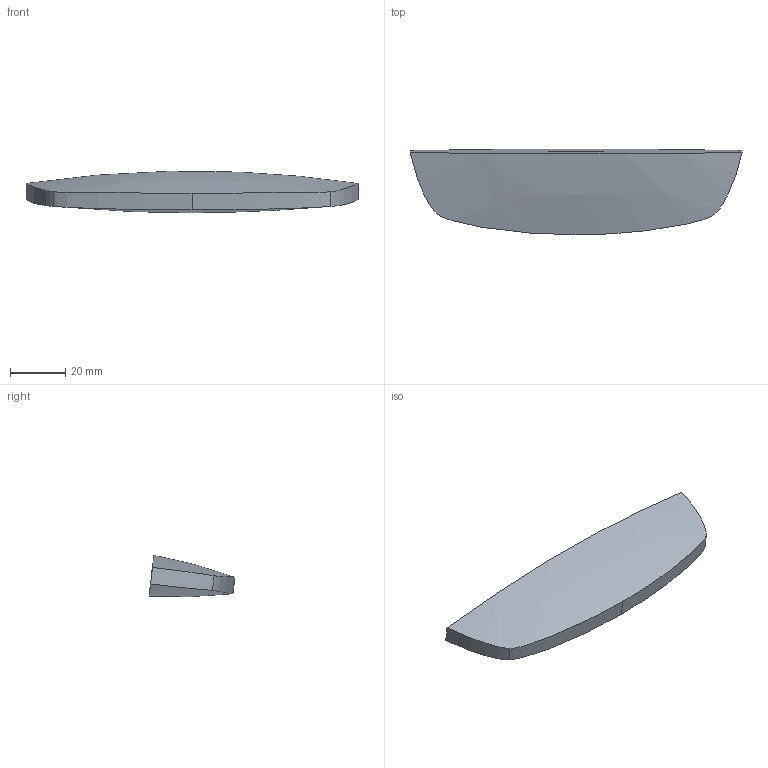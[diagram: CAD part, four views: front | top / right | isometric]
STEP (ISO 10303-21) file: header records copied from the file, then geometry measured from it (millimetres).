
FILE_DESCRIPTION(('Open CASCADE Model'),'2;1');
FILE_NAME('Open CASCADE Shape Model','2026-10-14T14:25:32',('Author'),( 'Open CASCADE'),'Open CASCADE STEP processor 7.8','Open CASCADE 7.8' ,'Unknown');
FILE_SCHEMA(('AUTOMOTIVE_DESIGN { 1 0 10303 214 1 1 1 1 }'));
Length unit declared in the file: millimetre
Products named in the file (1): Open CASCADE STEP translator 7.8 2
Bounding box: 120 x 31.02 x 14.94 mm (x, y, z)
Volume: 30060.9 mm3; surface area: 8536.9 mm2
Topology: 1 solids, 1 shells, 16 faces, 39 edges, 26 vertices
Faces by surface type: bspline 15, cylinder 1
Entity records: 3119 total; most frequent: CARTESIAN_POINT 2534, B_SPLINE_CURVE_WITH_KNOTS 91, ORIENTED_EDGE 78, PCURVE 78, DEFINITIONAL_REPRESENTATION 78, EDGE_CURVE 39, SURFACE_CURVE 39, DIRECTION 28
